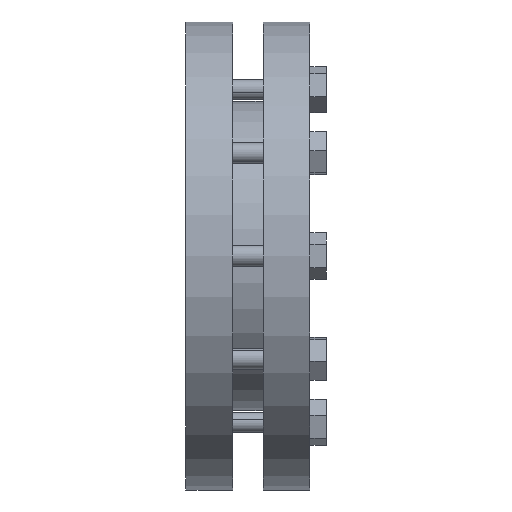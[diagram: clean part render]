
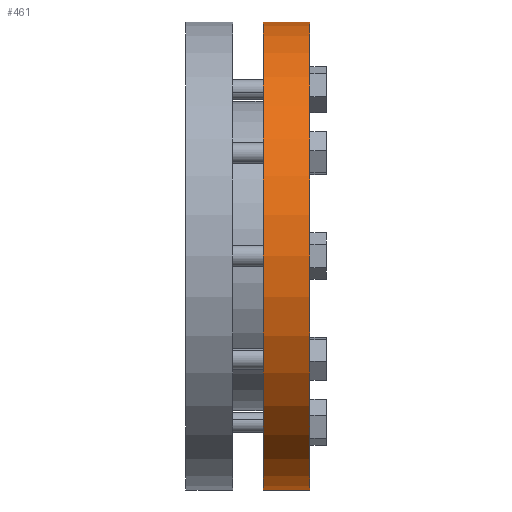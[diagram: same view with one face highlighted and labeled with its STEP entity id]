
A CAD part, front view. The second image highlights one B-rep face of the part: STEP entity #461.
In plain terms, the highlighted cylindrical face has radius 57.5 mm (diameter 115 mm), a partial arc.
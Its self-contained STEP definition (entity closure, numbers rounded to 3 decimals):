
#387 = EDGE_CURVE ( 'NONE', #3103, #3106, #2173, .T. ) ;
#427 = EDGE_CURVE ( 'NONE', #3100, #3074, #2076, .T. ) ;
#461 = ADVANCED_FACE ( 'NONE', ( #2307 ), #2200, .T. ) ;
#462 = EDGE_LOOP ( 'NONE', ( #477, #478, #479, #480 ) ) ;
#477 = ORIENTED_EDGE ( 'NONE', *, *, #3102, .F. ) ;
#478 = ORIENTED_EDGE ( 'NONE', *, *, #427, .T. ) ;
#479 = ORIENTED_EDGE ( 'NONE', *, *, #3108, .T. ) ;
#480 = ORIENTED_EDGE ( 'NONE', *, *, #387, .F. ) ;
#2068 = DIRECTION ( 'NONE',  ( 0., 0., 1. ) ) ;
#2069 = DIRECTION ( 'NONE',  ( -1., 0., 0. ) ) ;
#2072 = CARTESIAN_POINT ( 'NONE',  ( 30.5, 0., 0. ) ) ;
#2074 = AXIS2_PLACEMENT_3D ( 'NONE', #2072, #2069, #2068 ) ;
#2076 = CIRCLE ( 'NONE', #2074, 57.5 ) ;
#2169 = DIRECTION ( 'NONE',  ( 0., 0., 1. ) ) ;
#2170 = DIRECTION ( 'NONE',  ( -1., 0., 0. ) ) ;
#2171 = CARTESIAN_POINT ( 'NONE',  ( 19., 0., 0. ) ) ;
#2172 = AXIS2_PLACEMENT_3D ( 'NONE', #2171, #2170, #2169 ) ;
#2173 = CIRCLE ( 'NONE', #2172, 57.5 ) ;
#2200 = CYLINDRICAL_SURFACE ( 'NONE', #2203, 57.5 ) ;
#2203 = AXIS2_PLACEMENT_3D ( 'NONE', #2297, #2296, #2294 ) ;
#2294 = DIRECTION ( 'NONE',  ( 0., 0., 1. ) ) ;
#2296 = DIRECTION ( 'NONE',  ( -1., 0., 0. ) ) ;
#2297 = CARTESIAN_POINT ( 'NONE',  ( 0., 0., 0. ) ) ;
#2307 = FACE_OUTER_BOUND ( 'NONE', #462, .T. ) ;
#3074 = VERTEX_POINT ( 'NONE', #4900 ) ;
#3100 = VERTEX_POINT ( 'NONE', #4974 ) ;
#3102 = EDGE_CURVE ( 'NONE', #3100, #3103, #4973, .T. ) ;
#3103 = VERTEX_POINT ( 'NONE', #5009 ) ;
#3106 = VERTEX_POINT ( 'NONE', #5003 ) ;
#3108 = EDGE_CURVE ( 'NONE', #3074, #3106, #5002, .T. ) ;
#4900 = CARTESIAN_POINT ( 'NONE',  ( 30.5, 0., 57.5 ) ) ;
#4970 = DIRECTION ( 'NONE',  ( -1., 0., 0. ) ) ;
#4971 = VECTOR ( 'NONE', #4970, 1000. ) ;
#4972 = CARTESIAN_POINT ( 'NONE',  ( 0., 0., -57.5 ) ) ;
#4973 = LINE ( 'NONE', #4972, #4971 ) ;
#4974 = CARTESIAN_POINT ( 'NONE',  ( 30.5, 0., -57.5 ) ) ;
#4999 = DIRECTION ( 'NONE',  ( -1., 0., 0. ) ) ;
#5000 = VECTOR ( 'NONE', #4999, 1000. ) ;
#5001 = CARTESIAN_POINT ( 'NONE',  ( 0., 0., 57.5 ) ) ;
#5002 = LINE ( 'NONE', #5001, #5000 ) ;
#5003 = CARTESIAN_POINT ( 'NONE',  ( 19., 0., 57.5 ) ) ;
#5009 = CARTESIAN_POINT ( 'NONE',  ( 19., 0., -57.5 ) ) ;
